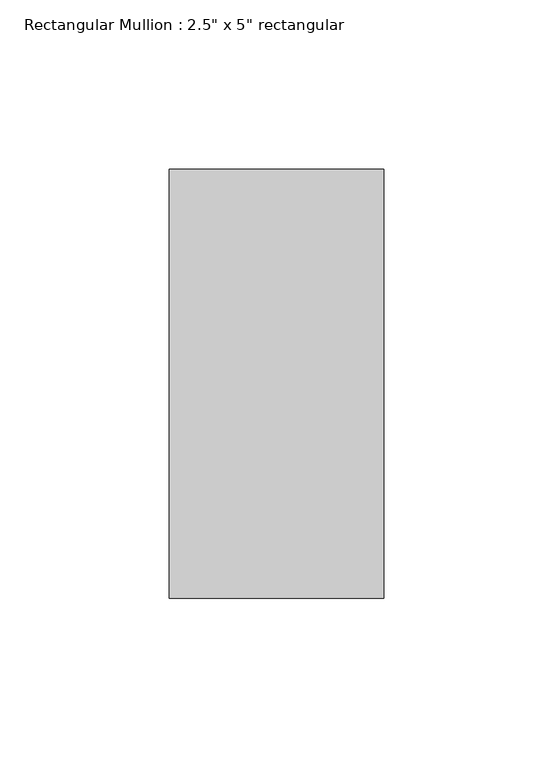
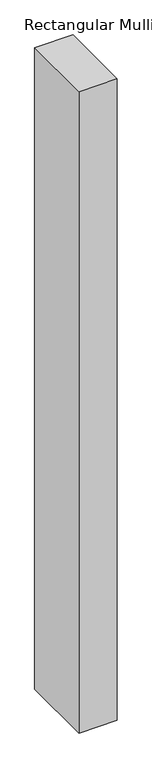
"""IFC4 building model written with IfcOpenShell, lengths in millimetres: member geometry."""

from ifc_helpers import new_model, si_unit, frame, origin, place, context, project, spatial, polyline, outline, extrude, source, transform, mapped, element, save


def member_866a01fa(model_context):
    return source(origin(), model_context, "Body", "SweptSolid", [
        extrude(outline(polyline([(31.75, 63.5), (31.75, -63.5), (-31.75, -63.5), (-31.75, 63.5), (31.75, 63.5)])), frame((0.0, 0.0, -1123.95), z_axis=(0.0, 0.0, 1.0), x_axis=(1.0, 0.0, 0.0)), (0.0, 0.0, 1.0), 1123.95),
    ])


if __name__ == "__main__":
    model = new_model("IFC4")
    model_context = context("Model", 3, world=origin())
    ifc_project = project(units=[si_unit("LENGTHUNIT", "METRE", prefix="MILLI")], contexts=[model_context])
    site = spatial("IfcSite", under=ifc_project)
    building = spatial("IfcBuilding", under=site)
    placement = place(None, origin())
    member_shape = member_866a01fa(model_context)
    element("IfcMember", 1, ObjectType="Rectangular Mullion : 2.5\" x 5\" rectangular", at=placement, inside=building, context=model_context, shape_type="MappedRepresentation", body=[
        mapped(member_shape, transform((0.0, 0.0, 0.0), x_axis=(1.0, 0.0, 0.0), y_axis=(0.0, 1.0, 0.0), z_axis=(0.0, 0.0, 1.0))),
    ])
    save(model, "model.ifc")
